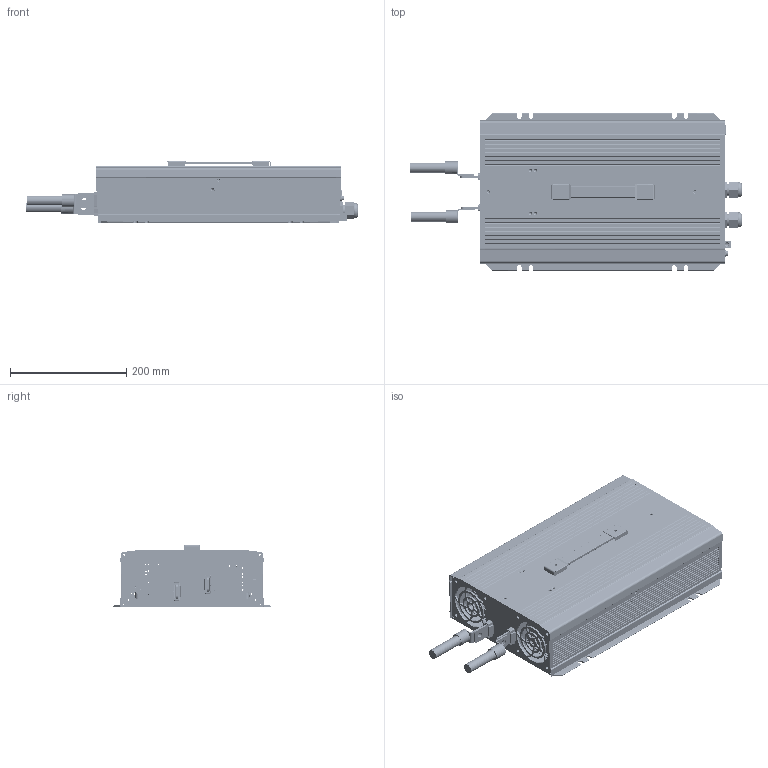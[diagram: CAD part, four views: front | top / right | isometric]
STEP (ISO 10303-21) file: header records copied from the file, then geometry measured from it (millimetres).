
FILE_DESCRIPTION(('Creo Elements/Direct Modeling STEP Export'),'2;1');
FILE_NAME('NTU-3200-US.stp','2022-03-28T13:10:51',(''),(''),'PTC Creo Elements/Direct Modeling STEP processor for AP214 (Solid Model)','PTC Creo Elements/Direct Modeling 19.0E 27-Jun-2016 (C) Parametric Technology GmbH','');
FILE_SCHEMA(('AUTOMOTIVE_DESIGN { 1 0 10303 214 1 1 1 1 }'));
Length unit declared in the file: millimetre
Products named in the file (212): 零件9; 零件8; 零件7; 零件6; 零件5; 零件4; 零件3; 零件2; 零件12; 零件11; 零件10; 零件1; 美规插片; 电容; open_shell.1; guwei1.1; guwei1; _S_K_X2_02C6_X0__S_; _S_4_X2_0192_X0__S_; _S_4_X2_0192_X0__S__S_6_S___S_U; TO220; TO220.9; TO220.8; TO220.7; TO220.6; TO220.5; TO220.4; TO220.3; TO220.21; TO220.20; TO220.2; TO220.19; TO220.18; TO220.17; TO220.16; TO220.15; TO220.14; TO220.13; TO220.12; TO220.11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
Assembly tree (121 placements, depth 2):
  零件9
  零件8
  零件7
  零件6
  零件5
    零件5
Bounding box: 570.16 x 270 x 107.65 mm (x, y, z)
Volume: 2399687 mm3; surface area: 2013343.8 mm2
Topology: 141 solids, 144 shells, 6947 faces, 18839 edges, 12477 vertices
Faces by surface type: plane 4276, cylinder 2295, cone 243, torus 116, bspline 16, extrusion 1
Entity records: 162229 total; most frequent: CARTESIAN_POINT 31041, ORIENTED_EDGE 27299, DIRECTION 25056, EDGE_CURVE 13652, VECTOR 9870, LINE 9869, VERTEX_POINT 9018, AXIS2_PLACEMENT_3D 7593
